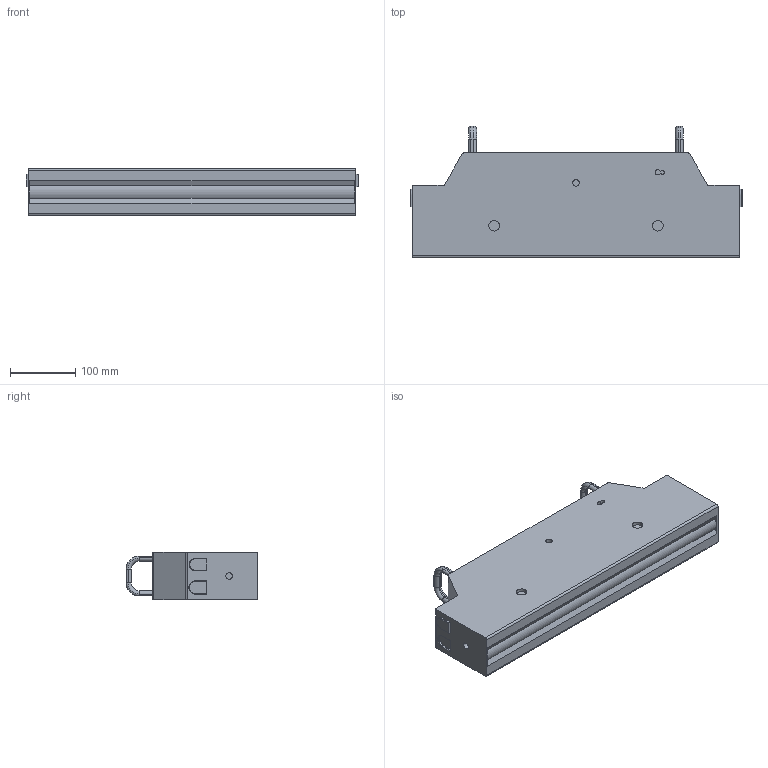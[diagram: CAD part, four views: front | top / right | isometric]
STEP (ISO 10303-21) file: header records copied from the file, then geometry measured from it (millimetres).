
FILE_DESCRIPTION((''),'2;1');
FILE_NAME('20230512__JDC-LINE','2023-09-15T10:33:19',('MichaelSpatz'),(''),'CREO PARAMETRIC BY PTC INC, 2023073','CREO PARAMETRIC BY PTC INC, 2023073','');
FILE_SCHEMA(('AUTOMOTIVE_DESIGN { 1 0 10303 214 1 1 1 1 }'));
Length unit declared in the file: millimetre
Products named in the file (1): 20230512__JDC-LINE
Bounding box: 507 x 201.4 x 72 mm (x, y, z)
Volume: 5297653 mm3; surface area: 250923.9 mm2
Topology: 1 solids, 1 shells, 147 faces, 336 edges, 206 vertices
Faces by surface type: cylinder 71, plane 56, torus 20
Entity records: 4506 total; most frequent: DIRECTION 829, CARTESIAN_POINT 723, ORIENTED_EDGE 672, EDGE_CURVE 336, AXIS2_PLACEMENT_3D 315, VERTEX_POINT 206, VECTOR 196, LINE 196
